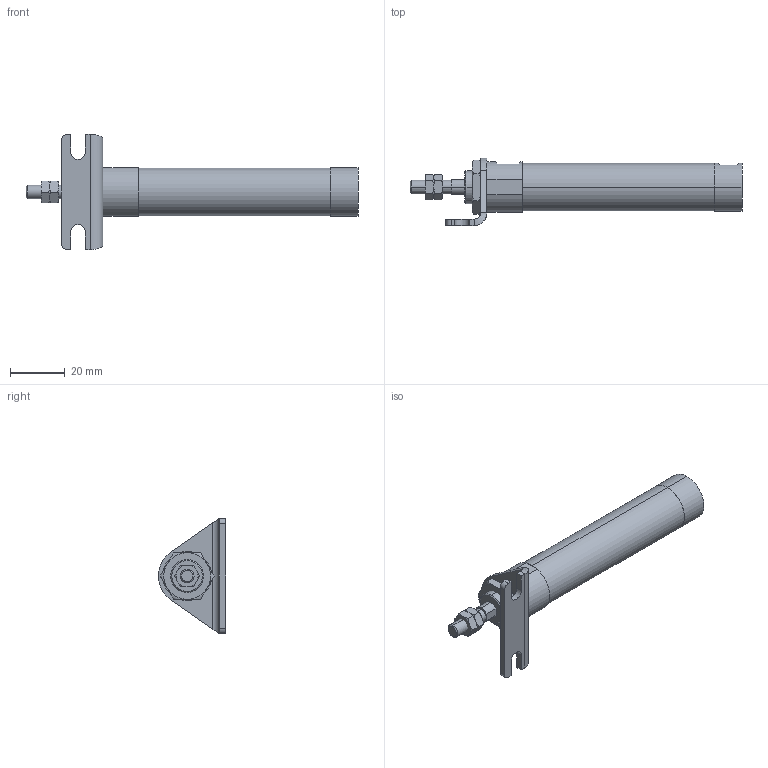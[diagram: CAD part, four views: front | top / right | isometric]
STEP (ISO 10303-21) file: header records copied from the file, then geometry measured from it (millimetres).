
FILE_DESCRIPTION (( 'STEP AP203' ), '1' );
FILE_NAME ('ZGU2-16-45-L.STEP', '2016-03-31T01:00:15', ( '' ), ( '' ), 'SwSTEP 2.0', 'SolidWorks 2014', '' );
FILE_SCHEMA (( 'CONFIG_CONTROL_DESIGN' ));
Length unit declared in the file: millimetre
Products named in the file (5): Z-16-L; ZGU2-16-45; ZGU2-16-45-L
Assembly tree (5 placements, depth 2):
  ZGU2-16-45-L
    ZGU2-16-45
    (unnamed)  x2
    (unnamed)
    Z-16-L
Bounding box: 121 x 24.46 x 42 mm (x, y, z)
Volume: 26137.8 mm3; surface area: 9612.6 mm2
Topology: 5 solids, 5 shells, 134 faces, 299 edges, 180 vertices
Faces by surface type: plane 56, torus 36, cylinder 32, cone 8, bspline 2
Entity records: 3968 total; most frequent: CARTESIAN_POINT 997, DIRECTION 511, ORIENTED_EDGE 494, EDGE_CURVE 247, AXIS2_PLACEMENT_3D 202, VERTEX_POINT 152, EDGE_LOOP 127, FACE_OUTER_BOUND 112
